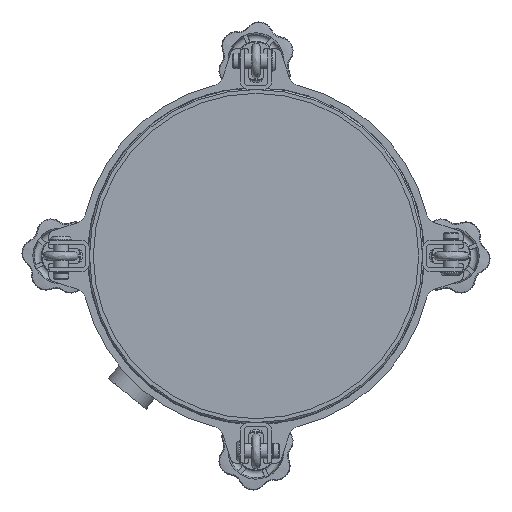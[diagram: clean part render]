
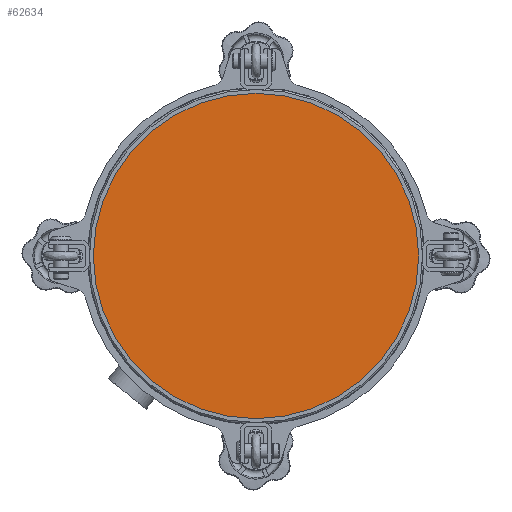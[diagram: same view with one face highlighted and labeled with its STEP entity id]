
A CAD part, front view. The second image highlights one B-rep face of the part: STEP entity #62634.
In plain terms, the highlighted planar face has unit normal (0, -1, 0).
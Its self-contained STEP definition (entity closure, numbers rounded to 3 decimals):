
#3061 = DIRECTION ( 'NONE',  ( 0., 0., -1. ) ) ;
#3588 = ORIENTED_EDGE ( 'NONE', *, *, #18752, .T. ) ;
#3773 = CARTESIAN_POINT ( 'NONE',  ( 0., 3., 125. ) ) ;
#9369 = VERTEX_POINT ( 'NONE', #3773 ) ;
#14004 = CIRCLE ( 'NONE', #36578, 125. ) ;
#15968 = DIRECTION ( 'NONE',  ( 0., -1., 0. ) ) ;
#18752 = EDGE_CURVE ( 'NONE', #9369, #9369, #14004, .T. ) ;
#19822 = EDGE_LOOP ( 'NONE', ( #3588 ) ) ;
#23812 = AXIS2_PLACEMENT_3D ( 'NONE', #46991, #64463, #3061 ) ;
#30235 = FACE_OUTER_BOUND ( 'NONE', #19822, .T. ) ;
#31605 = CARTESIAN_POINT ( 'NONE',  ( 0., 3., 0. ) ) ;
#32354 = DIRECTION ( 'NONE',  ( 0., 0., 1. ) ) ;
#36578 = AXIS2_PLACEMENT_3D ( 'NONE', #31605, #15968, #32354 ) ;
#46991 = CARTESIAN_POINT ( 'NONE',  ( 0., 3., 0. ) ) ;
#59237 = PLANE ( 'NONE',  #23812 ) ;
#62634 = ADVANCED_FACE ( 'NONE', ( #30235 ), #59237, .T. ) ;
#64463 = DIRECTION ( 'NONE',  ( 0., -1., 0. ) ) ;
